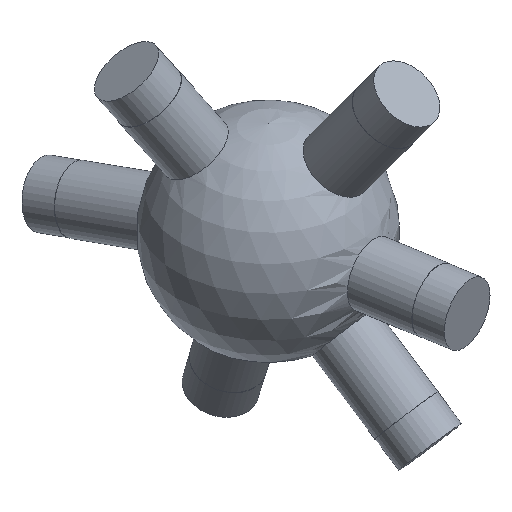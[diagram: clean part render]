
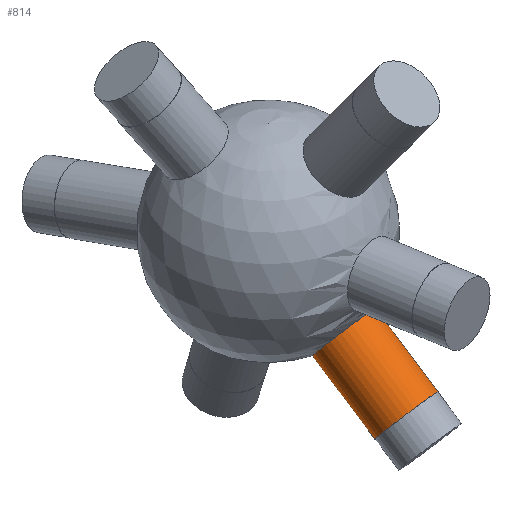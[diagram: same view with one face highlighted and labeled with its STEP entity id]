
A CAD part, isometric view. The second image highlights one B-rep face of the part: STEP entity #814.
In plain terms, the highlighted cylindrical face has radius 6 mm (diameter 12 mm), a full revolution.
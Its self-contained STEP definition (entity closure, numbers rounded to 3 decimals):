
#35 = SPHERICAL_SURFACE('',#36,20.);
#36 = AXIS2_PLACEMENT_3D('',#37,#38,#39);
#37 = CARTESIAN_POINT('',(0.,0.,0.));
#38 = DIRECTION('',(0.,0.,1.));
#39 = DIRECTION('',(1.,0.,-0.));
#321 = EDGE_CURVE('',#322,#322,#324,.T.);
#322 = VERTEX_POINT('',#323);
#323 = CARTESIAN_POINT('',(1.645,-10.703,
    -16.815));
#324 = SURFACE_CURVE('',#325,(#330,#399),.PCURVE_S1.);
#325 = CIRCLE('',#326,6.);
#326 = AXIS2_PLACEMENT_3D('',#327,#328,#329);
#327 = CARTESIAN_POINT('',(1.645,-14.56,
    -12.219));
#328 = DIRECTION('',(0.086,-0.763,-0.64)
  );
#329 = DIRECTION('',(0.,0.643,-0.766)
  );
#330 = PCURVE('',#35,#331);
#331 = DEFINITIONAL_REPRESENTATION('',(#332),#398);
#332 = B_SPLINE_CURVE_WITH_KNOTS('',8,(#333,#334,#335,#336,#337,#338,
    #339,#340,#341,#342,#343,#344,#345,#346,#347,#348,#349,#350,#351,
    #352,#353,#354,#355,#356,#357,#358,#359,#360,#361,#362,#363,#364,
    #365,#366,#367,#368,#369,#370,#371,#372,#373,#374,#375,#376,#377,
    #378,#379,#380,#381,#382,#383,#384,#385,#386,#387,#388,#389,#390,
    #391,#392,#393,#394,#395,#396,#397),.UNSPECIFIED.,.F.,.F.,(9,7,7,7,7
    ,7,7,7,7,9),(0.,0.393,1.129,1.773,
    2.901,3.746,4.381,5.332,
    5.808,6.283),.UNSPECIFIED.);
#333 = CARTESIAN_POINT('',(4.865,-0.999));
#334 = CARTESIAN_POINT('',(4.892,-0.997));
#335 = CARTESIAN_POINT('',(4.919,-0.994));
#336 = CARTESIAN_POINT('',(4.945,-0.991));
#337 = CARTESIAN_POINT('',(4.97,-0.986));
#338 = CARTESIAN_POINT('',(4.995,-0.98));
#339 = CARTESIAN_POINT('',(5.018,-0.973));
#340 = CARTESIAN_POINT('',(5.04,-0.965));
#341 = CARTESIAN_POINT('',(5.099,-0.94));
#342 = CARTESIAN_POINT('',(5.132,-0.92));
#343 = CARTESIAN_POINT('',(5.16,-0.898));
#344 = CARTESIAN_POINT('',(5.183,-0.874));
#345 = CARTESIAN_POINT('',(5.2,-0.848));
#346 = CARTESIAN_POINT('',(5.212,-0.822));
#347 = CARTESIAN_POINT('',(5.22,-0.795));
#348 = CARTESIAN_POINT('',(5.227,-0.743));
#349 = CARTESIAN_POINT('',(5.228,-0.719));
#350 = CARTESIAN_POINT('',(5.225,-0.695));
#351 = CARTESIAN_POINT('',(5.22,-0.671));
#352 = CARTESIAN_POINT('',(5.212,-0.647));
#353 = CARTESIAN_POINT('',(5.203,-0.624));
#354 = CARTESIAN_POINT('',(5.191,-0.602));
#355 = CARTESIAN_POINT('',(5.154,-0.543));
#356 = CARTESIAN_POINT('',(5.125,-0.509));
#357 = CARTESIAN_POINT('',(5.091,-0.477));
#358 = CARTESIAN_POINT('',(5.053,-0.45));
#359 = CARTESIAN_POINT('',(5.012,-0.428));
#360 = CARTESIAN_POINT('',(4.969,-0.411));
#361 = CARTESIAN_POINT('',(4.925,-0.4));
#362 = CARTESIAN_POINT('',(4.845,-0.39));
#363 = CARTESIAN_POINT('',(4.811,-0.388));
#364 = CARTESIAN_POINT('',(4.777,-0.39));
#365 = CARTESIAN_POINT('',(4.742,-0.395));
#366 = CARTESIAN_POINT('',(4.709,-0.404));
#367 = CARTESIAN_POINT('',(4.676,-0.415));
#368 = CARTESIAN_POINT('',(4.645,-0.429));
#369 = CARTESIAN_POINT('',(4.593,-0.459));
#370 = CARTESIAN_POINT('',(4.571,-0.473));
#371 = CARTESIAN_POINT('',(4.551,-0.489));
#372 = CARTESIAN_POINT('',(4.532,-0.506));
#373 = CARTESIAN_POINT('',(4.514,-0.524));
#374 = CARTESIAN_POINT('',(4.498,-0.543));
#375 = CARTESIAN_POINT('',(4.483,-0.563));
#376 = CARTESIAN_POINT('',(4.45,-0.616));
#377 = CARTESIAN_POINT('',(4.435,-0.65));
#378 = CARTESIAN_POINT('',(4.424,-0.685));
#379 = CARTESIAN_POINT('',(4.418,-0.721));
#380 = CARTESIAN_POINT('',(4.418,-0.757));
#381 = CARTESIAN_POINT('',(4.425,-0.793));
#382 = CARTESIAN_POINT('',(4.44,-0.828));
#383 = CARTESIAN_POINT('',(4.474,-0.876));
#384 = CARTESIAN_POINT('',(4.488,-0.892));
#385 = CARTESIAN_POINT('',(4.504,-0.907));
#386 = CARTESIAN_POINT('',(4.522,-0.921));
#387 = CARTESIAN_POINT('',(4.542,-0.934));
#388 = CARTESIAN_POINT('',(4.565,-0.946));
#389 = CARTESIAN_POINT('',(4.59,-0.957));
#390 = CARTESIAN_POINT('',(4.643,-0.976));
#391 = CARTESIAN_POINT('',(4.671,-0.984));
#392 = CARTESIAN_POINT('',(4.701,-0.991));
#393 = CARTESIAN_POINT('',(4.733,-0.996));
#394 = CARTESIAN_POINT('',(4.766,-0.999));
#395 = CARTESIAN_POINT('',(4.799,-1.001));
#396 = CARTESIAN_POINT('',(4.832,-1.));
#397 = CARTESIAN_POINT('',(4.865,-0.999));
#398 = ( GEOMETRIC_REPRESENTATION_CONTEXT(2) 
PARAMETRIC_REPRESENTATION_CONTEXT() REPRESENTATION_CONTEXT('2D SPACE',''
  ) );
#399 = PCURVE('',#400,#405);
#400 = CYLINDRICAL_SURFACE('',#401,6.);
#401 = AXIS2_PLACEMENT_3D('',#402,#403,#404);
#402 = CARTESIAN_POINT('',(0.,0.,0.));
#403 = DIRECTION('',(0.086,-0.763,-0.64)
  );
#404 = DIRECTION('',(0.,0.643,-0.766)
  );
#405 = DEFINITIONAL_REPRESENTATION('',(#406),#410);
#406 = LINE('',#407,#408);
#407 = CARTESIAN_POINT('',(0.,19.079));
#408 = VECTOR('',#409,1.);
#409 = DIRECTION('',(1.,0.));
#410 = ( GEOMETRIC_REPRESENTATION_CONTEXT(2) 
PARAMETRIC_REPRESENTATION_CONTEXT() REPRESENTATION_CONTEXT('2D SPACE',''
  ) );
#814 = ADVANCED_FACE('',(#815),#400,.T.);
#815 = FACE_BOUND('',#816,.T.);
#816 = EDGE_LOOP('',(#817,#840,#867,#868));
#817 = ORIENTED_EDGE('',*,*,#818,.T.);
#818 = EDGE_CURVE('',#322,#819,#821,.T.);
#819 = VERTEX_POINT('',#820);
#820 = CARTESIAN_POINT('',(3.006,-22.754,
    -26.929));
#821 = SEAM_CURVE('',#822,(#826,#833),.PCURVE_S1.);
#822 = LINE('',#823,#824);
#823 = CARTESIAN_POINT('',(0.,3.857,
    -4.596));
#824 = VECTOR('',#825,1.);
#825 = DIRECTION('',(0.086,-0.763,-0.64)
  );
#826 = PCURVE('',#400,#827);
#827 = DEFINITIONAL_REPRESENTATION('',(#828),#832);
#828 = LINE('',#829,#830);
#829 = CARTESIAN_POINT('',(6.283,-0.));
#830 = VECTOR('',#831,1.);
#831 = DIRECTION('',(0.,1.));
#832 = ( GEOMETRIC_REPRESENTATION_CONTEXT(2) 
PARAMETRIC_REPRESENTATION_CONTEXT() REPRESENTATION_CONTEXT('2D SPACE',''
  ) );
#833 = PCURVE('',#400,#834);
#834 = DEFINITIONAL_REPRESENTATION('',(#835),#839);
#835 = LINE('',#836,#837);
#836 = CARTESIAN_POINT('',(0.,-0.));
#837 = VECTOR('',#838,1.);
#838 = DIRECTION('',(0.,1.));
#839 = ( GEOMETRIC_REPRESENTATION_CONTEXT(2) 
PARAMETRIC_REPRESENTATION_CONTEXT() REPRESENTATION_CONTEXT('2D SPACE',''
  ) );
#840 = ORIENTED_EDGE('',*,*,#841,.F.);
#841 = EDGE_CURVE('',#819,#819,#842,.T.);
#842 = SURFACE_CURVE('',#843,(#848,#855),.PCURVE_S1.);
#843 = CIRCLE('',#844,6.);
#844 = AXIS2_PLACEMENT_3D('',#845,#846,#847);
#845 = CARTESIAN_POINT('',(3.006,-26.611,
    -22.333));
#846 = DIRECTION('',(0.086,-0.763,-0.64)
  );
#847 = DIRECTION('',(0.,0.643,-0.766)
  );
#848 = PCURVE('',#400,#849);
#849 = DEFINITIONAL_REPRESENTATION('',(#850),#854);
#850 = LINE('',#851,#852);
#851 = CARTESIAN_POINT('',(0.,34.87));
#852 = VECTOR('',#853,1.);
#853 = DIRECTION('',(1.,0.));
#854 = ( GEOMETRIC_REPRESENTATION_CONTEXT(2) 
PARAMETRIC_REPRESENTATION_CONTEXT() REPRESENTATION_CONTEXT('2D SPACE',''
  ) );
#855 = PCURVE('',#856,#861);
#856 = PLANE('',#857);
#857 = AXIS2_PLACEMENT_3D('',#858,#859,#860);
#858 = CARTESIAN_POINT('',(3.006,-26.611,
    -22.333));
#859 = DIRECTION('',(0.086,-0.763,-0.64)
  );
#860 = DIRECTION('',(0.,0.643,-0.766)
  );
#861 = DEFINITIONAL_REPRESENTATION('',(#862),#866);
#862 = CIRCLE('',#863,6.);
#863 = AXIS2_PLACEMENT_2D('',#864,#865);
#864 = CARTESIAN_POINT('',(0.,0.));
#865 = DIRECTION('',(1.,0.));
#866 = ( GEOMETRIC_REPRESENTATION_CONTEXT(2) 
PARAMETRIC_REPRESENTATION_CONTEXT() REPRESENTATION_CONTEXT('2D SPACE',''
  ) );
#867 = ORIENTED_EDGE('',*,*,#818,.F.);
#868 = ORIENTED_EDGE('',*,*,#321,.T.);
